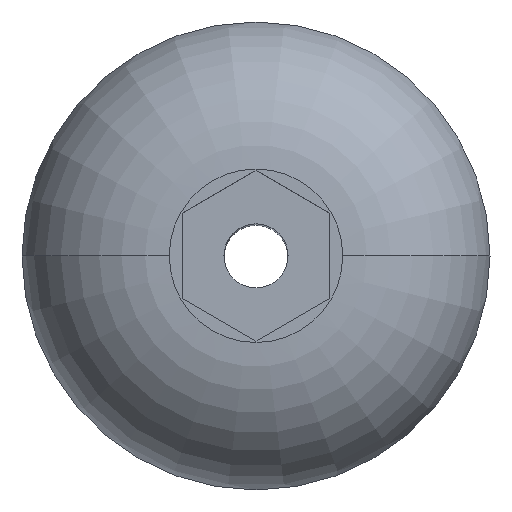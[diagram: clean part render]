
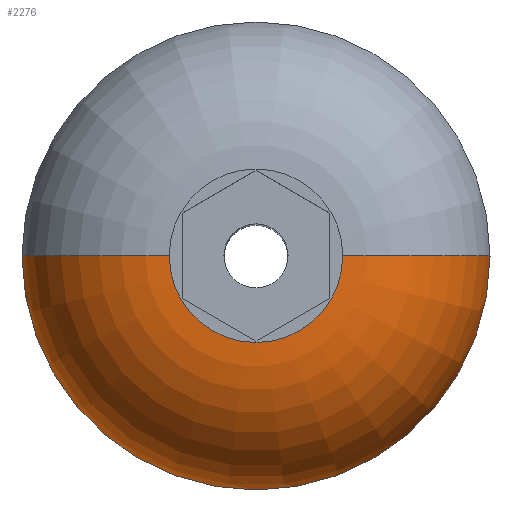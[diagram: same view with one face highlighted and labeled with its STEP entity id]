
A CAD part, top view. The second image highlights one B-rep face of the part: STEP entity #2276.
In plain terms, the highlighted toroidal (fillet/blend) face has major radius 1.76 mm and minor radius 3 mm.
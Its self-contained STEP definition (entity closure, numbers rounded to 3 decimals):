
#10 = DIRECTION ( 'NONE',  ( 0., 1., 0. ) ) ;
#26 = FACE_OUTER_BOUND ( 'NONE', #1547, .T. ) ;
#39 = CARTESIAN_POINT ( 'NONE',  ( -1.76, 0., -0.25 ) ) ;
#274 = ORIENTED_EDGE ( 'NONE', *, *, #931, .F. ) ;
#341 = VERTEX_POINT ( 'NONE', #1114 ) ;
#342 = CARTESIAN_POINT ( 'NONE',  ( 0., 0., -0.25 ) ) ;
#401 = CARTESIAN_POINT ( 'NONE',  ( 4.75, 0., 0. ) ) ;
#493 = EDGE_CURVE ( 'NONE', #515, #1555, #857, .T. ) ;
#515 = VERTEX_POINT ( 'NONE', #401 ) ;
#555 = AXIS2_PLACEMENT_3D ( 'NONE', #39, #10, #957 ) ;
#618 = DIRECTION ( 'NONE',  ( 1., 0., 0. ) ) ;
#621 = CARTESIAN_POINT ( 'NONE',  ( 0., 0., 0. ) ) ;
#633 = CIRCLE ( 'NONE', #555, 3. ) ;
#673 = DIRECTION ( 'NONE',  ( 0., 0., 1. ) ) ;
#747 = ORIENTED_EDGE ( 'NONE', *, *, #493, .T. ) ;
#857 = CIRCLE ( 'NONE', #1383, 3. ) ;
#931 = EDGE_CURVE ( 'NONE', #341, #1681, #633, .T. ) ;
#957 = DIRECTION ( 'NONE',  ( -1., 0., 0. ) ) ;
#1114 = CARTESIAN_POINT ( 'NONE',  ( -4.75, 0., 0. ) ) ;
#1148 = AXIS2_PLACEMENT_3D ( 'NONE', #621, #1764, #618 ) ;
#1184 = DIRECTION ( 'NONE',  ( 0., 0., -1. ) ) ;
#1221 = CIRCLE ( 'NONE', #1148, 4.75 ) ;
#1298 = DIRECTION ( 'NONE',  ( 1., 0., 0. ) ) ;
#1383 = AXIS2_PLACEMENT_3D ( 'NONE', #1935, #2292, #1184 ) ;
#1423 = TOROIDAL_SURFACE ( 'NONE', #2195, 1.76, 3. ) ;
#1434 = AXIS2_PLACEMENT_3D ( 'NONE', #1645, #673, #1298 ) ;
#1437 = CARTESIAN_POINT ( 'NONE',  ( 1.76, 0., 2.75 ) ) ;
#1547 = EDGE_LOOP ( 'NONE', ( #274, #2263, #747, #2022 ) ) ;
#1555 = VERTEX_POINT ( 'NONE', #1437 ) ;
#1645 = CARTESIAN_POINT ( 'NONE',  ( 0., 0., 2.75 ) ) ;
#1681 = VERTEX_POINT ( 'NONE', #1706 ) ;
#1706 = CARTESIAN_POINT ( 'NONE',  ( -1.76, 0., 2.75 ) ) ;
#1764 = DIRECTION ( 'NONE',  ( 0., 0., 1. ) ) ;
#1826 = DIRECTION ( 'NONE',  ( 0., 0., 1. ) ) ;
#1935 = CARTESIAN_POINT ( 'NONE',  ( 1.76, 0., -0.25 ) ) ;
#2011 = DIRECTION ( 'NONE',  ( 1., 0., 0. ) ) ;
#2022 = ORIENTED_EDGE ( 'NONE', *, *, #2069, .F. ) ;
#2069 = EDGE_CURVE ( 'NONE', #1681, #1555, #2084, .T. ) ;
#2084 = CIRCLE ( 'NONE', #1434, 1.76 ) ;
#2195 = AXIS2_PLACEMENT_3D ( 'NONE', #342, #1826, #2011 ) ;
#2263 = ORIENTED_EDGE ( 'NONE', *, *, #2352, .T. ) ;
#2276 = ADVANCED_FACE ( 'NONE', ( #26 ), #1423, .T. ) ;
#2292 = DIRECTION ( 'NONE',  ( 0., -1., 0. ) ) ;
#2352 = EDGE_CURVE ( 'NONE', #341, #515, #1221, .T. ) ;
